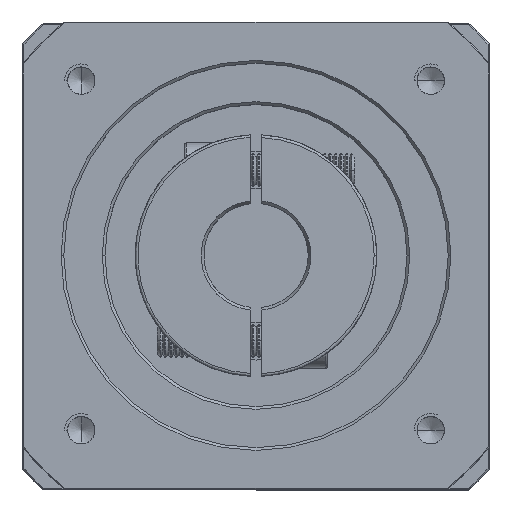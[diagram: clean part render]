
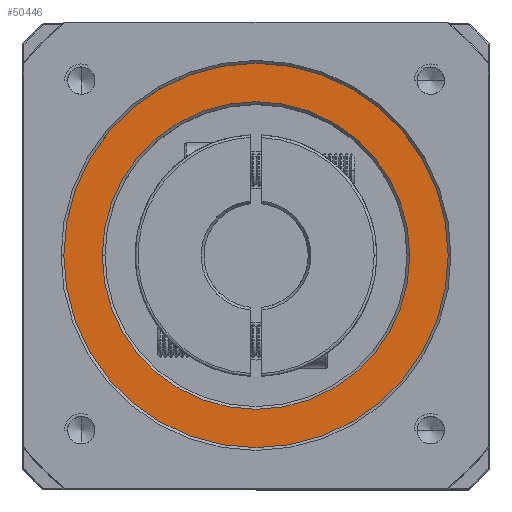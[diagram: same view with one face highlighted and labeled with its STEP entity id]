
A CAD part, top view. The second image highlights one B-rep face of the part: STEP entity #50446.
In plain terms, the highlighted planar face has unit normal (0, 0, 1).
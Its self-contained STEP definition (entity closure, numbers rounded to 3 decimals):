
#414 = ORIENTED_EDGE ( 'NONE', *, *, #105887, .T. ) ;
#1274 = DIRECTION ( 'NONE',  ( 0., 0., -1. ) ) ;
#2535 = EDGE_LOOP ( 'NONE', ( #414, #6215 ) ) ;
#3197 = VERTEX_POINT ( 'NONE', #42779 ) ;
#5755 = CARTESIAN_POINT ( 'NONE',  ( -92.814, 19.007, 12.467 ) ) ;
#6166 = DIRECTION ( 'NONE',  ( 0., 0., 1. ) ) ;
#6215 = ORIENTED_EDGE ( 'NONE', *, *, #46058, .T. ) ;
#7152 = DIRECTION ( 'NONE',  ( 1., 0., 0. ) ) ;
#7874 = ORIENTED_EDGE ( 'NONE', *, *, #53321, .T. ) ;
#10255 = ORIENTED_EDGE ( 'NONE', *, *, #73444, .T. ) ;
#14524 = DIRECTION ( 'NONE',  ( 1., 0., 0. ) ) ;
#16029 = FACE_BOUND ( 'NONE', #91277, .T. ) ;
#16666 = CIRCLE ( 'NONE', #91230, 28. ) ;
#18487 = AXIS2_PLACEMENT_3D ( 'NONE', #58047, #6166, #66678 ) ;
#24106 = CARTESIAN_POINT ( 'NONE',  ( -120.814, 19.007, 12.467 ) ) ;
#26247 = CARTESIAN_POINT ( 'NONE',  ( -64.814, 19.007, 12.467 ) ) ;
#27705 = VERTEX_POINT ( 'NONE', #54014 ) ;
#34078 = CIRCLE ( 'NONE', #18487, 35. ) ;
#39131 = VERTEX_POINT ( 'NONE', #26247 ) ;
#42276 = CARTESIAN_POINT ( 'NONE',  ( -92.814, 19.007, 12.467 ) ) ;
#42779 = CARTESIAN_POINT ( 'NONE',  ( -57.814, 19.007, 12.467 ) ) ;
#46058 = EDGE_CURVE ( 'NONE', #27705, #3197, #34078, .T. ) ;
#50446 = ADVANCED_FACE ( 'NONE', ( #94194, #16029 ), #101420, .T. ) ;
#50964 = DIRECTION ( 'NONE',  ( 1., 0., 0. ) ) ;
#53308 = CARTESIAN_POINT ( 'NONE',  ( -92.814, 19.007, 12.467 ) ) ;
#53321 = EDGE_CURVE ( 'NONE', #39131, #74956, #16666, .T. ) ;
#54014 = CARTESIAN_POINT ( 'NONE',  ( -127.814, 19.007, 12.467 ) ) ;
#58047 = CARTESIAN_POINT ( 'NONE',  ( -92.814, 19.007, 12.467 ) ) ;
#59033 = DIRECTION ( 'NONE',  ( 0., 0., 1. ) ) ;
#60635 = AXIS2_PLACEMENT_3D ( 'NONE', #110402, #59033, #7152 ) ;
#61951 = DIRECTION ( 'NONE',  ( 1., 0., 0. ) ) ;
#66279 = DIRECTION ( 'NONE',  ( 0., 0., 1. ) ) ;
#66678 = DIRECTION ( 'NONE',  ( 1., 0., 0. ) ) ;
#73444 = EDGE_CURVE ( 'NONE', #74956, #39131, #110272, .T. ) ;
#74956 = VERTEX_POINT ( 'NONE', #24106 ) ;
#75205 = AXIS2_PLACEMENT_3D ( 'NONE', #5755, #66279, #14524 ) ;
#75825 = AXIS2_PLACEMENT_3D ( 'NONE', #42276, #102315, #50964 ) ;
#81539 = CIRCLE ( 'NONE', #75205, 35. ) ;
#91230 = AXIS2_PLACEMENT_3D ( 'NONE', #53308, #1274, #61951 ) ;
#91277 = EDGE_LOOP ( 'NONE', ( #7874, #10255 ) ) ;
#94194 = FACE_OUTER_BOUND ( 'NONE', #2535, .T. ) ;
#101420 = PLANE ( 'NONE',  #60635 ) ;
#102315 = DIRECTION ( 'NONE',  ( 0., 0., -1. ) ) ;
#105887 = EDGE_CURVE ( 'NONE', #3197, #27705, #81539, .T. ) ;
#110272 = CIRCLE ( 'NONE', #75825, 28. ) ;
#110402 = CARTESIAN_POINT ( 'NONE',  ( -92.814, 19.007, 12.467 ) ) ;
